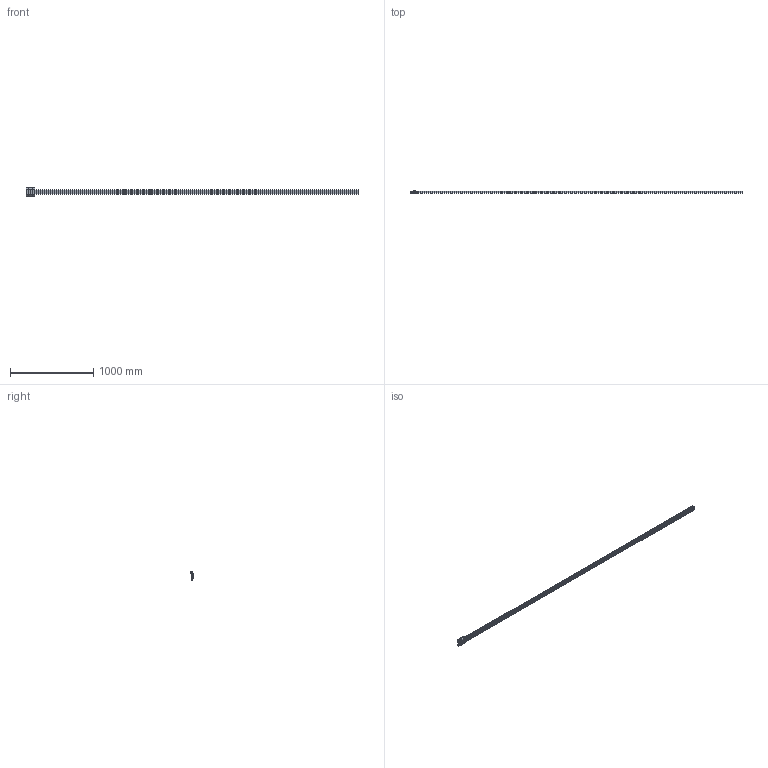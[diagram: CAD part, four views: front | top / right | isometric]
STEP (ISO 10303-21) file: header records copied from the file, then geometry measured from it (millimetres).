
FILE_DESCRIPTION( ( 'STEP AP203' ), '1' );
FILE_NAME( 'p:/temp/worker_20/temp/exporttempdir_3552_468_K5dpe/format_0/FDH25 84367S_4000-0-0.stp', '2021-04-27T06:40:54', ( 'License CC BY-ND 4.0' ), ( 'CADENAS' ), ' ', 'PARTsolutions', ' ' );
FILE_SCHEMA( ( 'CONFIG_CONTROL_DESIGN' ) );
Length unit declared in the file: millimetre
Products named in the file (5): FDH25 84367S_4000-0-0; _FD_25R 4000-0-0; _FD_25R Rollenhalter_1; _FD_25R 4000-0-0_2; _FD_25R Rollenhalter_2
Assembly tree (4 placements, depth 2):
  FDH25 84367S_4000-0-0
    _FD_25R 4000-0-0
    _FD_25R Rollenhalter_1
    _FD_25R 4000-0-0_2
    _FD_25R Rollenhalter_2
Bounding box: 4000 x 34.5 x 96.8 mm (x, y, z)
Volume: 4794125.2 mm3; surface area: 983056.4 mm2
Topology: 4 solids, 8 shells, 838 faces, 2190 edges, 1496 vertices
Faces by surface type: plane 497, cylinder 328, cone 12, torus 1
Full cylindrical faces by diameter (mm): 4.134 x8, 4.2 x1, 6.6 x134, 6.647 x4, 11 x134, 14 x1
Entity records: 23890 total; most frequent: DIRECTION 4098, CARTESIAN_POINT 3995, ORIENTED_EDGE 3474, EDGE_CURVE 1737, EDGE_LOOP 1535, AXIS2_PLACEMENT_3D 1529, VERTEX_POINT 1344, FACE_OUTER_BOUND 1121
